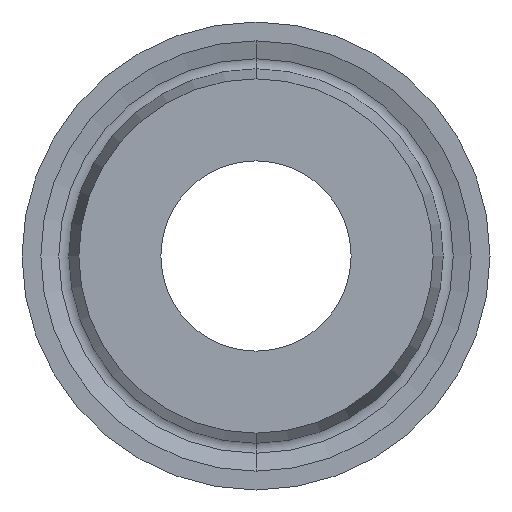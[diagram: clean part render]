
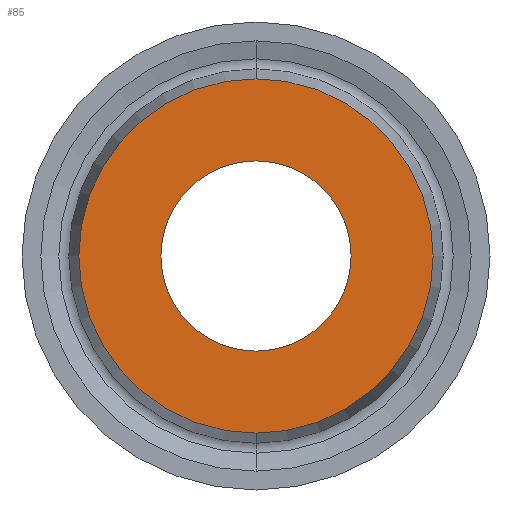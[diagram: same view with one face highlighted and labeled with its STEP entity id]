
A CAD part, front view. The second image highlights one B-rep face of the part: STEP entity #85.
In plain terms, the highlighted planar face has unit normal (0, -1, 0).
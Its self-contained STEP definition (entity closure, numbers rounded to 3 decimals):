
#3 = CIRCLE ( 'NONE', #266, 5.678 ) ;
#9 = DIRECTION ( 'NONE',  ( 0., -1., 0. ) ) ;
#10 = DIRECTION ( 'NONE',  ( 0., -1., 0. ) ) ;
#23 = ORIENTED_EDGE ( 'NONE', *, *, #52, .T. ) ;
#52 = EDGE_CURVE ( 'NONE', #144, #365, #3, .T. ) ;
#71 = AXIS2_PLACEMENT_3D ( 'NONE', #611, #295, #504 ) ;
#85 = ADVANCED_FACE ( 'NONE', ( #211, #411 ), #404, .F. ) ;
#87 = DIRECTION ( 'NONE',  ( 0., 0., -1. ) ) ;
#101 = DIRECTION ( 'NONE',  ( 0., 0., -1. ) ) ;
#112 = CARTESIAN_POINT ( 'NONE',  ( 0., 0., 0. ) ) ;
#144 = VERTEX_POINT ( 'NONE', #523 ) ;
#147 = ORIENTED_EDGE ( 'NONE', *, *, #168, .F. ) ;
#162 = CARTESIAN_POINT ( 'NONE',  ( 0., 0., 0. ) ) ;
#168 = EDGE_CURVE ( 'NONE', #629, #643, #392, .T. ) ;
#170 = EDGE_LOOP ( 'NONE', ( #375, #23 ) ) ;
#207 = DIRECTION ( 'NONE',  ( 0., 0., -1. ) ) ;
#211 = FACE_BOUND ( 'NONE', #433, .T. ) ;
#234 = CARTESIAN_POINT ( 'NONE',  ( 0., 0., 5.678 ) ) ;
#250 = EDGE_CURVE ( 'NONE', #643, #629, #565, .T. ) ;
#266 = AXIS2_PLACEMENT_3D ( 'NONE', #162, #468, #101 ) ;
#268 = CARTESIAN_POINT ( 'NONE',  ( 0., 0., 3.05 ) ) ;
#295 = DIRECTION ( 'NONE',  ( 0., 1., 0. ) ) ;
#365 = VERTEX_POINT ( 'NONE', #234 ) ;
#375 = ORIENTED_EDGE ( 'NONE', *, *, #551, .T. ) ;
#392 = CIRCLE ( 'NONE', #619, 3.05 ) ;
#404 = PLANE ( 'NONE',  #71 ) ;
#411 = FACE_OUTER_BOUND ( 'NONE', #170, .T. ) ;
#433 = EDGE_LOOP ( 'NONE', ( #147, #549 ) ) ;
#434 = CARTESIAN_POINT ( 'NONE',  ( 0., 0., 0. ) ) ;
#457 = CARTESIAN_POINT ( 'NONE',  ( 0., 0., 0. ) ) ;
#459 = CIRCLE ( 'NONE', #544, 5.678 ) ;
#468 = DIRECTION ( 'NONE',  ( 0., -1., 0. ) ) ;
#473 = AXIS2_PLACEMENT_3D ( 'NONE', #434, #537, #87 ) ;
#485 = CARTESIAN_POINT ( 'NONE',  ( 0., 0., -3.05 ) ) ;
#504 = DIRECTION ( 'NONE',  ( 0., 0., 1. ) ) ;
#523 = CARTESIAN_POINT ( 'NONE',  ( 0., 0., -5.678 ) ) ;
#526 = DIRECTION ( 'NONE',  ( 0., 0., -1. ) ) ;
#537 = DIRECTION ( 'NONE',  ( 0., -1., 0. ) ) ;
#544 = AXIS2_PLACEMENT_3D ( 'NONE', #457, #9, #207 ) ;
#549 = ORIENTED_EDGE ( 'NONE', *, *, #250, .F. ) ;
#551 = EDGE_CURVE ( 'NONE', #365, #144, #459, .T. ) ;
#565 = CIRCLE ( 'NONE', #473, 3.05 ) ;
#611 = CARTESIAN_POINT ( 'NONE',  ( -3.05, 0., 0. ) ) ;
#619 = AXIS2_PLACEMENT_3D ( 'NONE', #112, #10, #526 ) ;
#629 = VERTEX_POINT ( 'NONE', #485 ) ;
#643 = VERTEX_POINT ( 'NONE', #268 ) ;
